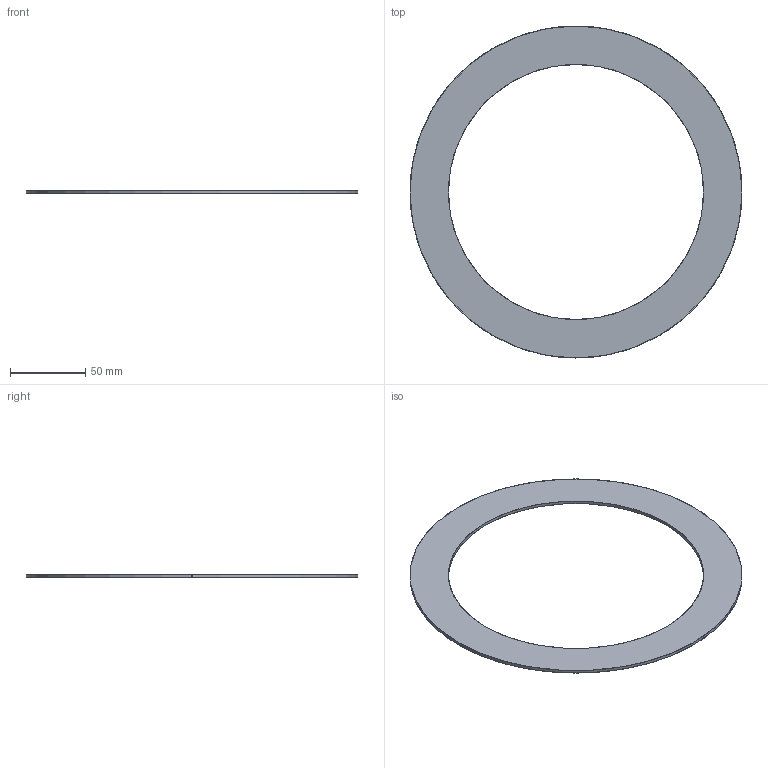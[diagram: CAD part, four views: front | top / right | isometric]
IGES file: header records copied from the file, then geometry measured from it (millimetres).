
Start section: SolidWorks IGES file using analytic representation for surfaces
Global section: file name: C:\Users\cad08\Desktop\90000 168 per web\900170057ZW00A.IGS; native system: SolidWorks 2016; preprocessor: SolidWorks 2016; author: cad08; date: 200302.090905; units: millimetre
Bounding box: 220 x 220 x 2 mm (x, y, z)
Surface area: 33607.2 mm2 (no closed solid volume)
Topology: 0 solids, 0 shells, 6 faces, 272 edges, 272 vertices
Faces by surface type: revolution 4, bspline 2
